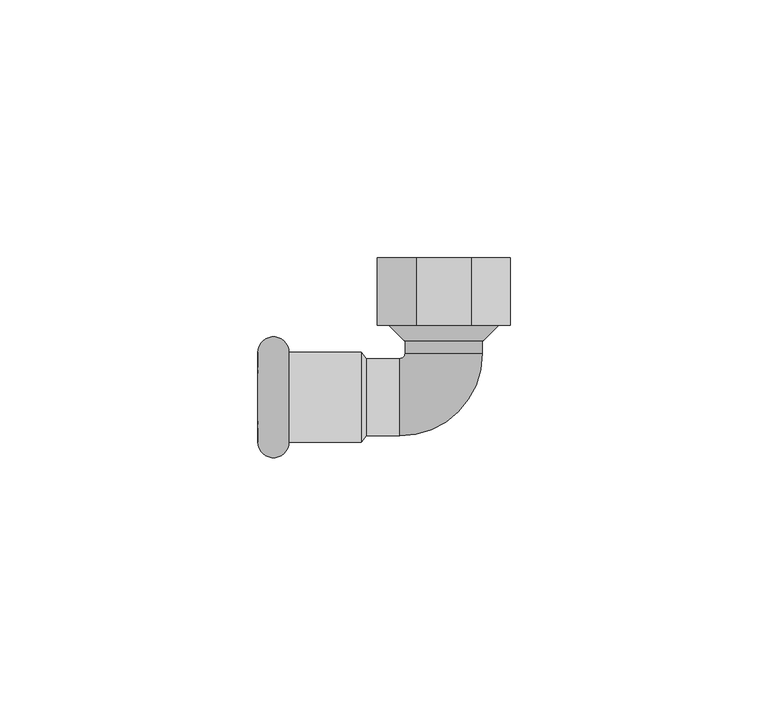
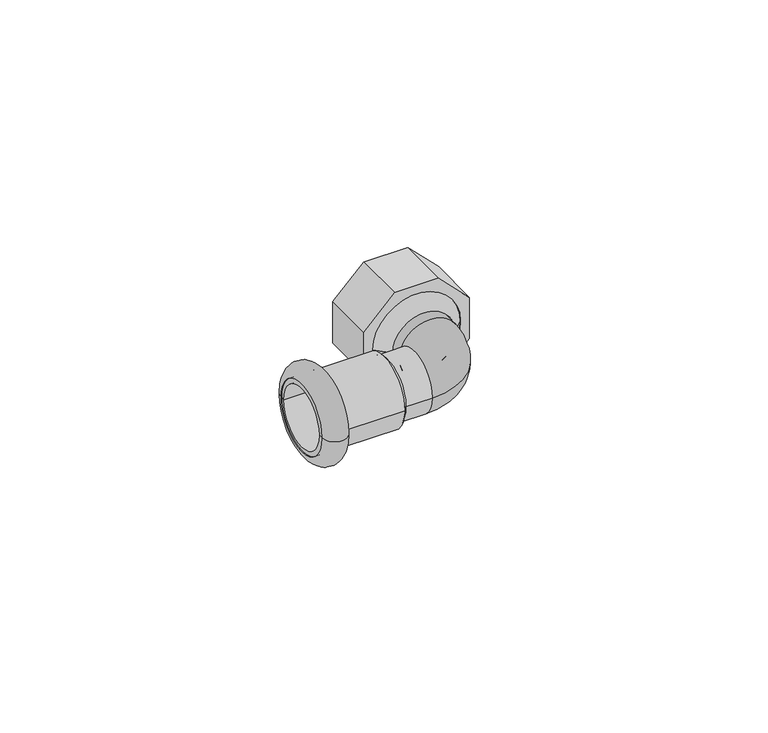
"""IFC4 building model written with IfcOpenShell, lengths in millimetres: pipe fitting geometry."""

from ifc_helpers import new_model, si_unit, point, frame, origin, place, context, project, spatial, polyline, circle_curve, ellipse_curve, trimmed, source, transform, mapped, element, save
from ifc_brep_helpers import plane_surface, cylinder_surface, revolved_surface, advanced_brep


def pipe_fitting_c9f97ff8(model_context):
    return source(origin(), model_context, "Body", "AdvancedBrep", [
        advanced_brep(
        [(-36.0, 8.7, 0.0), (-36.0, -8.7, 0.0), (-29.9987073, -8.7, 0.0), (-29.9987073, 8.7, 0.0)],
        [
            (0, 1, circle_curve(frame((-36.0, 0.0, 0.0), z_axis=(-1.0, 0.0, 0.0), x_axis=(0.0, -1.0000000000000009, 0.0)), 8.7)),
            (1, 2),
            (2, 3, circle_curve(frame((-29.9987073, 0.0, 0.0), z_axis=(1.0, 0.0, 0.0), x_axis=(0.0, -1.0000000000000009, 0.0)), 8.7)),
            (3, 0),
            (1, 0, circle_curve(frame((-36.0, 0.0, 0.0), z_axis=(-1.0, 0.0, 0.0), x_axis=(0.0, -1.0000000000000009, 0.0)), 8.7)),
            (3, 2, circle_curve(frame((-29.9987073, 0.0, 0.0), z_axis=(1.0, 0.0, 0.0), x_axis=(0.0, -1.0000000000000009, 0.0)), 8.7)),
            (2, 1, circle_curve(frame((-32.9993536, -8.7, 0.0), z_axis=(0.0, 0.0, -1.0000000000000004), x_axis=(-1.0000000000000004, 0.0, 0.0)), 3.0006464)),
            (0, 3, circle_curve(frame((-32.9993536, 8.7, 0.0), z_axis=(0.0, 0.0, -1.0000000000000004), x_axis=(-1.0000000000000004, 0.0, 0.0)), 3.0006464)),
        ],
        [
            revolved_surface(polyline([(-29.99870730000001, -8.700000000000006, 0.0), (-36.000000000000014, -8.700000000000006, 0.0)]), (-16.0, 0.0, 0.0), (1.0000000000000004, 0.0, 0.0)),
            revolved_surface(trimmed(ellipse_curve(frame((-32.9993536, -8.7, 0.0), z_axis=(0.0, 0.0, 1.0000000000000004), x_axis=(-1.0000000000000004, 0.0, 0.0)), 3.0006464, 3.0006464), [point((-36.0, -8.7, 0.0))], [point((-29.9987073, -8.7, 0.0))], True, "CARTESIAN"), (-16.0, 0.0, 0.0), (1.0000000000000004, 0.0, 0.0)),
        ],
        [
            (0, [[1, 2, 3, 4]]),
            (0, [[5, -4, 6, -2]]),
            (1, [[-3, 7, -1, 8]]),
            (1, [[-6, -8, -5, -7]]),
        ],
    ),
        advanced_brep(
        [(-36.0, 7.5, 0.0), (-36.0, -7.5, 0.0), (-15.0, -7.5, 0.0), (-15.0, 7.5, 0.0), (-36.0, 8.7, 0.0), (-36.0, -8.7, 0.0), (-16.0, 8.7, 0.0), (-16.0, -8.7, 0.0)],
        [
            (0, 1, circle_curve(frame((-36.0, 0.0, 0.0), z_axis=(-1.0, 0.0, 0.0), x_axis=(0.0, -1.0000000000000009, 0.0)), 7.5)),
            (1, 2),
            (2, 3, circle_curve(frame((-15.0, 0.0, 0.0), z_axis=(1.0, 0.0, 0.0), x_axis=(0.0, -1.0000000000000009, 0.0)), 7.5)),
            (3, 0),
            (1, 0, circle_curve(frame((-36.0, 0.0, 0.0), z_axis=(-1.0, 0.0, 0.0), x_axis=(0.0, -1.0000000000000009, 0.0)), 7.5)),
            (3, 2, circle_curve(frame((-15.0, 0.0, 0.0), z_axis=(1.0, 0.0, 0.0), x_axis=(0.0, -1.0000000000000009, 0.0)), 7.5)),
            (4, 5, circle_curve(frame((-36.0, 0.0, 0.0), z_axis=(-1.0, 0.0, 0.0), x_axis=(0.0, -1.0000000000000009, 0.0)), 8.7)),
            (5, 1),
            (0, 4),
            (5, 4, circle_curve(frame((-36.0, 0.0, 0.0), z_axis=(-1.0, 0.0, 0.0), x_axis=(0.0, -1.0000000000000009, 0.0)), 8.7)),
            (6, 7, circle_curve(frame((-16.0, 0.0, 0.0), z_axis=(-1.0, 0.0, 0.0), x_axis=(0.0, -1.0000000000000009, 0.0)), 8.7)),
            (7, 5),
            (4, 6),
            (7, 6, circle_curve(frame((-16.0, 0.0, 0.0), z_axis=(-1.0, 0.0, 0.0), x_axis=(0.0, -1.0000000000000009, 0.0)), 8.7)),
            (2, 7),
            (6, 3),
        ],
        [
            revolved_surface(polyline([(-15.0, -7.500000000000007, 0.0), (-36.000000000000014, -7.500000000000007, 0.0)]), (-16.0, 0.0, 0.0), (1.0000000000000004, 0.0, 0.0)),
            plane_surface(frame((-36.0, 0.0, 0.0), z_axis=(-1.0, 0.0, 0.0), x_axis=(0.0, -1.0, 0.0))),
            cylinder_surface(frame((-16.0, 0.0, 0.0), z_axis=(1.0000000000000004, 0.0, 0.0), x_axis=(0.0, -1.0000000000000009, 0.0)), 8.7),
            revolved_surface(polyline([(-16.0, -8.7, 0.0), (-15.0, -7.5, 0.0)]), (-16.0, 0.0, 0.0), (1.0000000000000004, 0.0, 0.0)),
        ],
        [
            (0, [[1, 2, 3, 4]]),
            (0, [[5, -4, 6, -2]]),
            (1, [[7, 8, -1, 9]]),
            (1, [[10, -9, -5, -8]]),
            (2, [[11, 12, -7, 13]]),
            (2, [[14, -13, -10, -12]]),
            (3, [[-3, 15, -11, 16]]),
            (3, [[-6, -16, -14, -15]]),
        ],
    ),
        advanced_brep(
        [(-12.8556872, 27.0, 5.325), (-5.325, 27.0, 12.8556872), (5.325, 27.0, 12.8556872), (12.8556872, 27.0, 5.325), (12.8556872, 27.0, -5.325), (5.325, 27.0, -12.8556872), (-5.325, 27.0, -12.8556872), (-12.8556872, 27.0, -5.325), (10.65, 27.0, 0.0), (-10.65, 27.0, 0.0), (-12.8556872, 14.0, 5.325), (-12.8556872, 14.0, -5.325), (-5.325, 14.0, -12.8556872), (5.325, 14.0, -12.8556872), (12.8556872, 14.0, -5.325), (12.8556872, 14.0, 5.325), (5.325, 14.0, 12.8556872), (-5.325, 14.0, 12.8556872), (10.6788231, 14.0, 0.0), (-10.6788231, 14.0, 0.0), (10.65, 14.0, 0.0), (-10.65, 14.0, 0.0), (7.6788231, 14.0, 0.0), (-7.6788231, 14.0, 0.0), (7.6788231, 11.0, 0.0), (-7.6788231, 11.0, 0.0)],
        [
            (0, 1),
            (1, 2),
            (2, 3),
            (3, 4),
            (4, 5),
            (5, 6),
            (6, 7),
            (7, 0),
            (8, 9, circle_curve(frame((0.0, 27.0, 0.0), z_axis=(0.0, -1.0, 0.0), x_axis=(-1.0, 0.0, 0.0)), 10.65)),
            (9, 8, circle_curve(frame((0.0, 27.0, 0.0), z_axis=(0.0, -1.0, 0.0), x_axis=(-1.0, 0.0, 0.0)), 10.65)),
            (10, 11),
            (11, 12),
            (12, 13),
            (13, 14),
            (14, 15),
            (15, 16),
            (16, 17),
            (17, 10),
            (18, 19, circle_curve(frame((0.0, 14.0, 0.0), z_axis=(0.0, 1.0, 0.0), x_axis=(-1.0, 0.0, 0.0)), 10.6788231)),
            (19, 18, circle_curve(frame((0.0, 14.0, 0.0), z_axis=(0.0, 1.0, 0.0), x_axis=(1.0, 0.0, 0.0)), 10.6788231)),
            (8, 20),
            (20, 21, circle_curve(frame((0.0, 14.0, 0.0), z_axis=(0.0, -1.0, 0.0), x_axis=(-1.0, 0.0, 0.0)), 10.65)),
            (21, 9),
            (21, 20, circle_curve(frame((0.0, 14.0, 0.0), z_axis=(0.0, -1.0, 0.0), x_axis=(-1.0, 0.0, 0.0)), 10.65)),
            (0, 10),
            (17, 1),
            (16, 2),
            (15, 3),
            (14, 4),
            (13, 5),
            (12, 6),
            (11, 7),
            (22, 23, circle_curve(frame((0.0, 14.0, 0.0), z_axis=(0.0, -1.0, 0.0), x_axis=(1.0, 0.0, 0.0)), 7.6788231)),
            (23, 22, circle_curve(frame((0.0, 14.0, 0.0), z_axis=(0.0, -1.0, 0.0), x_axis=(-1.0, 0.0, 0.0)), 7.6788231)),
            (24, 25, circle_curve(frame((0.0, 11.0, 0.0), z_axis=(0.0, 1.0, 0.0), x_axis=(-1.0, 0.0, 0.0)), 7.6788231)),
            (25, 19),
            (18, 24),
            (23, 25),
            (24, 22),
            (25, 24, circle_curve(frame((0.0, 11.0, 0.0), z_axis=(0.0, 1.0, 0.0), x_axis=(1.0, 0.0, 0.0)), 7.6788231)),
        ],
        [
            plane_surface(frame((-10.65, 27.0, 0.0), z_axis=(0.0, 1.0, 0.0), x_axis=(0.0, 0.0, -1.0))),
            plane_surface(frame((-10.65, 14.0, 0.0), z_axis=(0.0, -1.0, 0.0), x_axis=(0.0, 0.0, 1.0))),
            revolved_surface(polyline([(-10.65, 14.0, 0.0), (-10.65, 27.0, 0.0)]), (0.0, 14.0, 0.0), (0.0, -1.0, 0.0)),
            plane_surface(frame((-12.8556872, 27.0, 5.325), z_axis=(-0.7071067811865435, 0.0, 0.7071067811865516), x_axis=(0.0, -1.0, 0.0))),
            plane_surface(frame((-5.325, 27.0, 12.8556872), z_axis=(0.0, 0.0, 1.0), x_axis=(0.0, -1.0, 0.0))),
            plane_surface(frame((5.325, 27.0, 12.8556872), z_axis=(0.7071067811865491, 0.0, 0.7071067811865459), x_axis=(0.0, -1.0, 0.0))),
            plane_surface(frame((12.8556872, 27.0, 5.325), z_axis=(1.0, 0.0, 0.0), x_axis=(0.0, -1.0, 0.0))),
            plane_surface(frame((12.8556872, 27.0, -5.325), z_axis=(0.7071067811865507, 0.0, -0.7071067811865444), x_axis=(0.0, -1.0, 0.0))),
            plane_surface(frame((5.325, 27.0, -12.8556872), z_axis=(0.0, 0.0, -1.0), x_axis=(0.0, -1.0, 0.0))),
            plane_surface(frame((-5.325, 27.0, -12.8556872), z_axis=(-0.7071067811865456, 0.0, -0.7071067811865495), x_axis=(0.0, -1.0, 0.0))),
            plane_surface(frame((-12.8556872, 27.0, -5.325), z_axis=(-1.0, 0.0, 0.0), x_axis=(0.0, -1.0, 0.0))),
            plane_surface(frame((0.0, 14.0, 0.0), z_axis=(0.0, 1.0, 0.0), x_axis=(1.0, 0.0, 0.0))),
            revolved_surface(polyline([(-10.6788231, 14.0, 0.0), (-7.6788231, 11.0, 0.0)]), (0.0, 14.0, 0.0), (0.0, -1.0, 0.0)),
            revolved_surface(polyline([(-7.6788231, 11.0, 0.0), (-7.6788231, 14.0, 0.0)]), (0.0, 14.0, 0.0), (0.0, -1.0, 0.0)),
            revolved_surface(polyline([(10.6788231, 14.0, 0.0), (7.6788231, 11.0, 0.0)]), (0.0, 14.0, 0.0), (0.0, -1.0, 0.0)),
            revolved_surface(polyline([(7.6788231, 11.0, 0.0), (7.6788231, 14.0, 0.0)]), (0.0, 14.0, 0.0), (0.0, -1.0, 0.0)),
        ],
        [
            (0, [[1, 2, 3, 4, 5, 6, 7, 8], [9, 10]]),
            (1, [[11, 12, 13, 14, 15, 16, 17, 18], [19, 20]]),
            (2, [[-9, 21, 22, 23]]),
            (2, [[-10, -23, 24, -21]]),
            (3, [[-1, 25, -18, 26]]),
            (4, [[-2, -26, -17, 27]]),
            (5, [[-3, -27, -16, 28]]),
            (6, [[-4, -28, -15, 29]]),
            (7, [[-5, -29, -14, 30]]),
            (8, [[-6, -30, -13, 31]]),
            (9, [[-7, -31, -12, 32]]),
            (10, [[-8, -32, -11, -25]]),
            (11, [[-22, -24], [33, 34]]),
            (12, [[35, 36, -19, 37]]),
            (13, [[-34, 38, -35, 39]]),
            (14, [[-36, 40, -37, -20]]),
            (15, [[-33, -39, -40, -38]]),
        ],
    ),
        advanced_brep(
        [(-7.5, 14.0, 0.0), (7.5, 14.0, 0.0), (-7.5, 8.5, 0.0), (7.5, 8.5, 0.0), (-8.5, -7.5, 0.0), (-8.5, 7.5, 0.0), (-16.0, 7.5, 0.0), (-16.0, -7.5, 0.0)],
        [
            (0, 1, circle_curve(frame((0.0, 14.0, 0.0), z_axis=(0.0, 1.0, 0.0), x_axis=(1.0, 0.0, 0.0)), 7.5)),
            (1, 0, circle_curve(frame((0.0, 14.0, 0.0), z_axis=(0.0, 1.0, 0.0), x_axis=(1.0, 0.0, 0.0)), 7.5)),
            (0, 2),
            (2, 3, circle_curve(frame((0.0, 8.5, 0.0), z_axis=(0.0, 1.0, 0.0), x_axis=(1.0, 0.0, 0.0)), 7.5)),
            (3, 1),
            (3, 2, circle_curve(frame((0.0, 8.5, 0.0), z_axis=(0.0, 1.0, 0.0), x_axis=(1.0, 0.0, 0.0)), 7.5)),
            (4, 3, circle_curve(frame((-8.5, 8.5, 0.0), z_axis=(0.0, 0.0, 1.0), x_axis=(1.0, 0.0, 0.0)), 16.0)),
            (2, 5, circle_curve(frame((-8.5, 8.5, 0.0), z_axis=(0.0, 0.0, -1.0), x_axis=(1.0, 0.0, 0.0)), 1.0)),
            (5, 4, circle_curve(frame((-8.5, 0.0, 0.0), z_axis=(1.0, 0.0, 0.0), x_axis=(0.0, -1.0, 0.0)), 7.5)),
            (4, 5, circle_curve(frame((-8.5, 0.0, 0.0), z_axis=(1.0, 0.0, 0.0), x_axis=(0.0, -1.0, 0.0)), 7.5)),
            (6, 7, circle_curve(frame((-16.0, 0.0, 0.0), z_axis=(-1.0, 0.0, 0.0), x_axis=(0.0, -1.0, 0.0)), 7.5)),
            (7, 6, circle_curve(frame((-16.0, 0.0, 0.0), z_axis=(-1.0, 0.0, 0.0), x_axis=(0.0, -1.0, 0.0)), 7.5)),
            (5, 6),
            (7, 4),
        ],
        [
            plane_surface(frame((0.0, 14.0, 0.0), z_axis=(0.0, 1.0, 0.0), x_axis=(0.0, 0.0, 1.0))),
            cylinder_surface(frame((0.0, 14.0, 0.0), z_axis=(0.0, 1.0, 0.0), x_axis=(1.0, 0.0, 0.0)), 7.5),
            revolved_surface(trimmed(ellipse_curve(frame((0.0, 8.5, 0.0), z_axis=(0.0, 1.0, 0.0), x_axis=(1.0, 0.0, 0.0)), 7.5, 7.5), [point((-7.5, 8.5, 0.0))], [point((7.5, 8.5, 0.0))], True, "CARTESIAN"), (-8.5, 8.5, 0.0), (0.0, 0.0, -1.0)),
            revolved_surface(trimmed(ellipse_curve(frame((0.0, 8.5, 0.0), z_axis=(0.0, 1.0, 0.0), x_axis=(1.0, 0.0, 0.0)), 7.5, 7.5), [point((7.5, 8.5, 0.0))], [point((-7.5, 8.5, 0.0))], True, "CARTESIAN"), (-8.5, 8.5, 0.0), (0.0, 0.0, -1.0)),
            plane_surface(frame((-16.0, 0.0, 0.0), z_axis=(-1.0, 0.0, 0.0), x_axis=(0.0, 0.0, 1.0))),
            cylinder_surface(frame((-8.5, 0.0, 0.0), z_axis=(1.0, 0.0, 0.0), x_axis=(0.0, -1.0, 0.0)), 7.5),
        ],
        [
            (0, [[1, 2]]),
            (1, [[-1, 3, 4, 5]]),
            (1, [[-2, -5, 6, -3]]),
            (2, [[7, -4, 8, 9]]),
            (3, [[-8, -6, -7, 10]]),
            (4, [[11, 12]]),
            (5, [[-9, 13, -12, 14]]),
            (5, [[-10, -14, -11, -13]]),
        ],
    ),
    ])


if __name__ == "__main__":
    model = new_model("IFC4")
    model_context = context("Model", 3, world=origin())
    ifc_project = project(units=[si_unit("LENGTHUNIT", "METRE", prefix="MILLI")], contexts=[model_context])
    site = spatial("IfcSite", under=ifc_project)
    building = spatial("IfcBuilding", under=site)
    placement = place(None, origin())
    pipe_fitting_shape = pipe_fitting_c9f97ff8(model_context)
    element("IfcPipeFitting", 1, ObjectType="NLRS_50_PIF_UN_Mapress koper overgangsknie 90° met binnendraad_geb : DN10-50-Rp2\" / d12-54-Rp2\"", at=placement, inside=building, context=model_context, shape_type="MappedRepresentation", body=[
        mapped(pipe_fitting_shape, transform((0.0, 0.0, 0.0), x_axis=(1.0, 0.0, 0.0), y_axis=(0.0, 1.0, 0.0), z_axis=(0.0, 0.0, 1.0))),
    ])
    save(model, "model.ifc")
